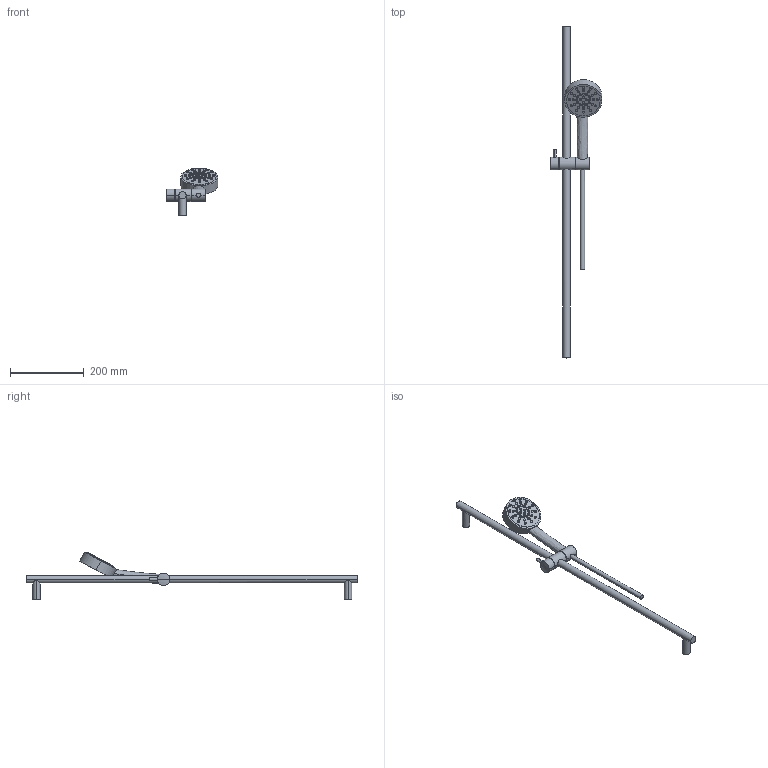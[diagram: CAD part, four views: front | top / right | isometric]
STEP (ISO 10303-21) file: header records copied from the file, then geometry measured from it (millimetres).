
FILE_DESCRIPTION(('FreeCAD Model'),'2;1');
FILE_NAME('Open CASCADE Shape Model','2024-07-25T14:21:15',('Author'),( ''),'Open CASCADE STEP processor 7.6','FreeCAD','Unknown');
FILE_SCHEMA(('AUTOMOTIVE_DESIGN { 1 0 10303 214 1 1 1 1 }'));
Length unit declared in the file: millimetre
Products named in the file (44): TopLevelAssembly; Wyciąganie041; Wyciąganie001; Wyciąganie002; Wyciąganie003; Wyciąganie004; Wyciąganie005; Wyciąganie006; Wyciąganie007; Wyciąganie008; Wyciąganie009; Wyciąganie010; Wyciąganie011; Wyciąganie012; Wyciąganie013; Wyciąganie014; Wyciąganie015; Wyciąganie016; Wyciąganie017; Wyciąganie018; Wyciąganie019; Wyciąganie020; Wyciąganie021; Wyciąganie022; Wyciąganie023; Wyciąganie024; Wyciąganie025; Wyciąganie026; Wyciąganie027; Wyciąganie028; Wyciąganie029; Wyciąganie030; Wyciąganie031; Wyciąganie032; Wyciąganie033; Wyciąganie034; Wyciąganie035; Wyciąganie036; Wyciąganie037; Wyciąganie038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
Assembly tree (43 placements, depth 3):
  TopLevelAssembly
    Wyciąganie041
      Wyciąganie001
      Wyciąganie002
      Wyciąganie003
      Wyciąganie004
      Wyciąganie005
      Wyciąganie006
      Wyciąganie007
      Wyciąganie008
      Wyciąganie009
      Wyciąganie010
      Wyciąganie011
      Wyciąganie012
      Wyciąganie013
      Wyciąganie014
      Wyciąganie015
      Wyciąganie016
      Wyciąganie017
      Wyciąganie018
      Wyciąganie019
      Wyciąganie020
      Wyciąganie021
      Wyciąganie022
      Wyciąganie023
      Wyciąganie024
      Wyciąganie025
      Wyciąganie026
      Wyciąganie027
      Wyciąganie028
      Wyciąganie029
      Wyciąganie030
      Wyciąganie031
      Wyciąganie032
      Wyciąganie033
      Wyciąganie034
      Wyciąganie035
      Wyciąganie036
      Wyciąganie037
      Wyciąganie038
      Wyciąganie039
      Wyciąganie040
    Połączona geometria bryłowa
    Wyciąganie042
Bounding box: 140.42 x 900 x 129.91 mm (x, y, z)
Volume: 719652.2 mm3; surface area: 134595 mm2
Topology: 42 solids, 42 shells, 213 faces, 351 edges, 221 vertices
Faces by surface type: cylinder 108, plane 101, bspline 4
Entity records: 6424 total; most frequent: CARTESIAN_POINT 1202, DIRECTION 1047, ORIENTED_EDGE 698, AXIS2_PLACEMENT_3D 461, EDGE_CURVE 349, VERTEX_POINT 221, FACE_BOUND 214, EDGE_LOOP 214
